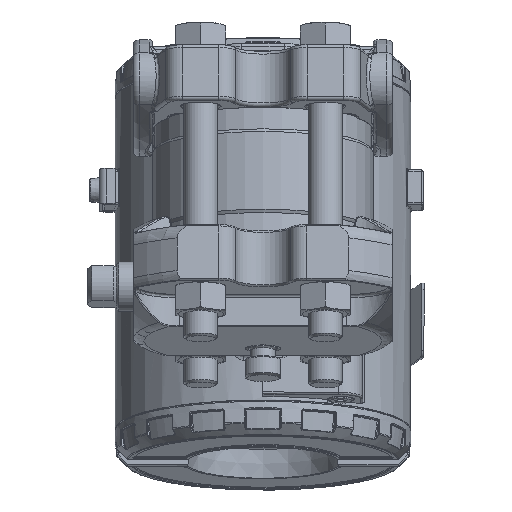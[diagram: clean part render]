
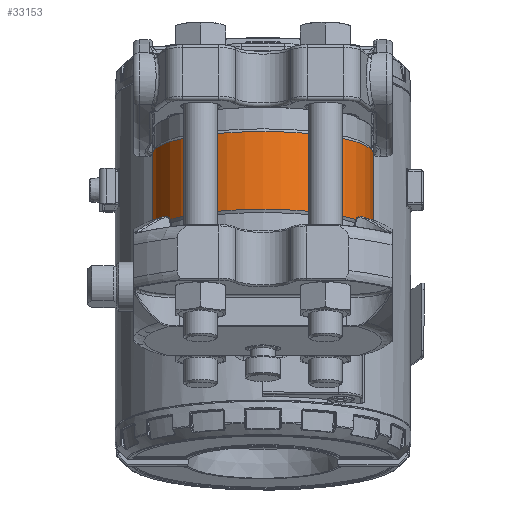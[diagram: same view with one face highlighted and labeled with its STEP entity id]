
A CAD part, left-side view. The second image highlights one B-rep face of the part: STEP entity #33153.
In plain terms, the highlighted cylindrical face has radius 31 mm (diameter 62 mm), a partial arc.
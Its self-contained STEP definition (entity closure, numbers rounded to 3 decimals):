
#1587=CYLINDRICAL_SURFACE('',#35872,31.);
#2529=FACE_OUTER_BOUND('',#4761,.T.);
#4761=EDGE_LOOP('',(#22090,#22091,#22092,#22093,#22094,#22095,#22096,#22097,
#22098,#22099));
#7099=LINE('',#50779,#8341);
#7100=LINE('',#50792,#8342);
#8341=VECTOR('',#40407,10.);
#8342=VECTOR('',#40408,10.);
#9580=CIRCLE('',#35852,31.);
#9583=CIRCLE('',#35855,31.);
#9589=CIRCLE('',#35865,31.);
#9590=CIRCLE('',#35866,31.);
#12259=B_SPLINE_CURVE_WITH_KNOTS('',3,(#50755,#50756,#50757,#50758,#50759),
 .UNSPECIFIED.,.F.,.F.,(4,1,4),(0.57,0.913,1.279),
 .UNSPECIFIED.);
#12261=B_SPLINE_CURVE_WITH_KNOTS('',3,(#50772,#50773,#50774,#50775,#50776,
#50777),.UNSPECIFIED.,.F.,.F.,(4,1,1,4),(0.,0.274,0.548,
0.708),.UNSPECIFIED.);
#12262=B_SPLINE_CURVE_WITH_KNOTS('',3,(#50780,#50781,#50782,#50783,#50784),
 .UNSPECIFIED.,.F.,.F.,(4,1,4),(0.57,0.913,1.279),
 .UNSPECIFIED.);
#12263=B_SPLINE_CURVE_WITH_KNOTS('',3,(#50786,#50787,#50788,#50789,#50790,
#50791),.UNSPECIFIED.,.F.,.F.,(4,1,1,4),(0.,0.274,
0.548,0.708),.UNSPECIFIED.);
#13510=VERTEX_POINT('',#50606);
#13512=VERTEX_POINT('',#50619);
#13513=VERTEX_POINT('',#50630);
#13525=VERTEX_POINT('',#50693);
#13526=VERTEX_POINT('',#50695);
#13527=VERTEX_POINT('',#50707);
#13529=VERTEX_POINT('',#50754);
#13532=VERTEX_POINT('',#50771);
#13533=VERTEX_POINT('',#50778);
#13534=VERTEX_POINT('',#50785);
#16716=EDGE_CURVE('',#13513,#13512,#9580,.T.);
#16720=EDGE_CURVE('',#13510,#13513,#9583,.T.);
#16732=EDGE_CURVE('',#13526,#13525,#9589,.T.);
#16735=EDGE_CURVE('',#13525,#13527,#9590,.T.);
#16739=EDGE_CURVE('',#13510,#13529,#12259,.T.);
#16743=EDGE_CURVE('',#13532,#13512,#12261,.T.);
#16744=EDGE_CURVE('',#13533,#13532,#7099,.T.);
#16745=EDGE_CURVE('',#13526,#13533,#12262,.T.);
#16746=EDGE_CURVE('',#13534,#13527,#12263,.T.);
#16747=EDGE_CURVE('',#13529,#13534,#7100,.T.);
#22090=ORIENTED_EDGE('',*,*,#16720,.T.);
#22091=ORIENTED_EDGE('',*,*,#16716,.T.);
#22092=ORIENTED_EDGE('',*,*,#16743,.F.);
#22093=ORIENTED_EDGE('',*,*,#16744,.F.);
#22094=ORIENTED_EDGE('',*,*,#16745,.F.);
#22095=ORIENTED_EDGE('',*,*,#16732,.T.);
#22096=ORIENTED_EDGE('',*,*,#16735,.T.);
#22097=ORIENTED_EDGE('',*,*,#16746,.F.);
#22098=ORIENTED_EDGE('',*,*,#16747,.F.);
#22099=ORIENTED_EDGE('',*,*,#16739,.F.);
#33153=ADVANCED_FACE('',(#2529),#1587,.T.);
#35852=AXIS2_PLACEMENT_3D('',#50631,#40361,#40362);
#35855=AXIS2_PLACEMENT_3D('',#50637,#40368,#40369);
#35865=AXIS2_PLACEMENT_3D('',#50696,#40390,#40391);
#35866=AXIS2_PLACEMENT_3D('',#50718,#40392,#40393);
#35872=AXIS2_PLACEMENT_3D('',#50770,#40405,#40406);
#40361=DIRECTION('center_axis',(0.,0.,1.));
#40362=DIRECTION('ref_axis',(-1.,0.,0.));
#40368=DIRECTION('center_axis',(0.,0.,1.));
#40369=DIRECTION('ref_axis',(-1.,0.,0.));
#40390=DIRECTION('center_axis',(0.,0.,-1.));
#40391=DIRECTION('ref_axis',(-1.,0.,0.));
#40392=DIRECTION('center_axis',(0.,0.,-1.));
#40393=DIRECTION('ref_axis',(-1.,0.,0.));
#40405=DIRECTION('center_axis',(0.,0.,1.));
#40406=DIRECTION('ref_axis',(-1.,0.,0.));
#40407=DIRECTION('',(0.,0.,-1.));
#40408=DIRECTION('',(0.,0.,1.));
#50606=CARTESIAN_POINT('',(29.591,9.241,-11.134));
#50619=CARTESIAN_POINT('',(29.591,-9.241,-11.134));
#50630=CARTESIAN_POINT('',(-31.,0.,-11.134));
#50631=CARTESIAN_POINT('Origin',(0.,0.,-11.134));
#50637=CARTESIAN_POINT('Origin',(0.,0.,-11.134));
#50693=CARTESIAN_POINT('',(-31.,0.,11.134));
#50695=CARTESIAN_POINT('',(29.591,-9.241,11.134));
#50696=CARTESIAN_POINT('Origin',(0.,0.,11.134));
#50707=CARTESIAN_POINT('',(29.591,9.241,11.134));
#50718=CARTESIAN_POINT('Origin',(0.,0.,11.134));
#50754=CARTESIAN_POINT('',(28.645,11.853,-5.));
#50755=CARTESIAN_POINT('Ctrl Pts',(29.591,9.241,-11.133));
#50756=CARTESIAN_POINT('Ctrl Pts',(29.348,10.019,-10.419));
#50757=CARTESIAN_POINT('Ctrl Pts',(28.86,11.344,-8.57));
#50758=CARTESIAN_POINT('Ctrl Pts',(28.645,11.853,-6.218));
#50759=CARTESIAN_POINT('Ctrl Pts',(28.645,11.853,-5.));
#50770=CARTESIAN_POINT('Origin',(0.,0.,0.));
#50771=CARTESIAN_POINT('',(28.645,-11.853,-5.));
#50772=CARTESIAN_POINT('Ctrl Pts',(28.645,-11.853,-5.));
#50773=CARTESIAN_POINT('Ctrl Pts',(28.645,-11.853,-5.913));
#50774=CARTESIAN_POINT('Ctrl Pts',(28.767,-11.563,-7.738));
#50775=CARTESIAN_POINT('Ctrl Pts',(29.174,-10.51,-9.79));
#50776=CARTESIAN_POINT('Ctrl Pts',(29.477,-9.605,-10.8));
#50777=CARTESIAN_POINT('Ctrl Pts',(29.59,-9.241,-11.134));
#50778=CARTESIAN_POINT('',(28.645,-11.853,5.));
#50779=CARTESIAN_POINT('',(28.645,-11.853,0.));
#50780=CARTESIAN_POINT('Ctrl Pts',(29.591,-9.241,11.133));
#50781=CARTESIAN_POINT('Ctrl Pts',(29.348,-10.019,10.419));
#50782=CARTESIAN_POINT('Ctrl Pts',(28.86,-11.344,8.57));
#50783=CARTESIAN_POINT('Ctrl Pts',(28.645,-11.853,6.218));
#50784=CARTESIAN_POINT('Ctrl Pts',(28.645,-11.853,5.));
#50785=CARTESIAN_POINT('',(28.645,11.853,5.));
#50786=CARTESIAN_POINT('Ctrl Pts',(28.645,11.853,5.));
#50787=CARTESIAN_POINT('Ctrl Pts',(28.645,11.853,5.913));
#50788=CARTESIAN_POINT('Ctrl Pts',(28.767,11.563,7.738));
#50789=CARTESIAN_POINT('Ctrl Pts',(29.174,10.51,9.79));
#50790=CARTESIAN_POINT('Ctrl Pts',(29.477,9.605,10.8));
#50791=CARTESIAN_POINT('Ctrl Pts',(29.59,9.241,11.134));
#50792=CARTESIAN_POINT('',(28.645,11.853,0.));
